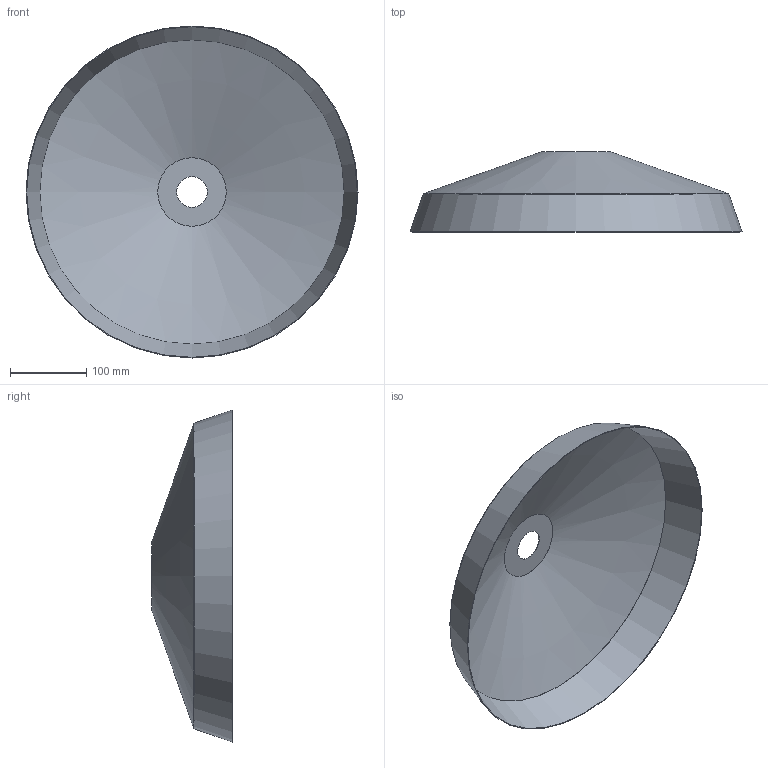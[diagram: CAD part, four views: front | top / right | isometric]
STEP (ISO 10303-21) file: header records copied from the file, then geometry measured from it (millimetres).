
FILE_DESCRIPTION (( 'STEP AP214' ), '1' );
FILE_NAME ('EVELYN-1CAM3906.STEP', '2026-01-13T11:22:12', ( '' ), ( '' ), 'SwSTEP 2.0', 'SolidWorks 2025', '' );
FILE_SCHEMA (( 'AUTOMOTIVE_DESIGN' ));
Length unit declared in the file: millimetre
Products named in the file (1): EVELYN-1CAM3906
Bounding box: 435 x 105 x 435 mm (x, y, z)
Volume: 160162.1 mm3; surface area: 401663.3 mm2
Topology: 1 solids, 1 shells, 8 faces, 13 edges, 8 vertices
Faces by surface type: cone 4, plane 3, cylinder 1
Full cylindrical faces by diameter (mm): 40 x1
Entity records: 191 total; most frequent: DIRECTION 34, CARTESIAN_POINT 25, AXIS2_PLACEMENT_3D 17, ORIENTED_EDGE 16, EDGE_LOOP 16, FACE_OUTER_BOUND 9, EDGE_CURVE 8, CIRCLE 8
